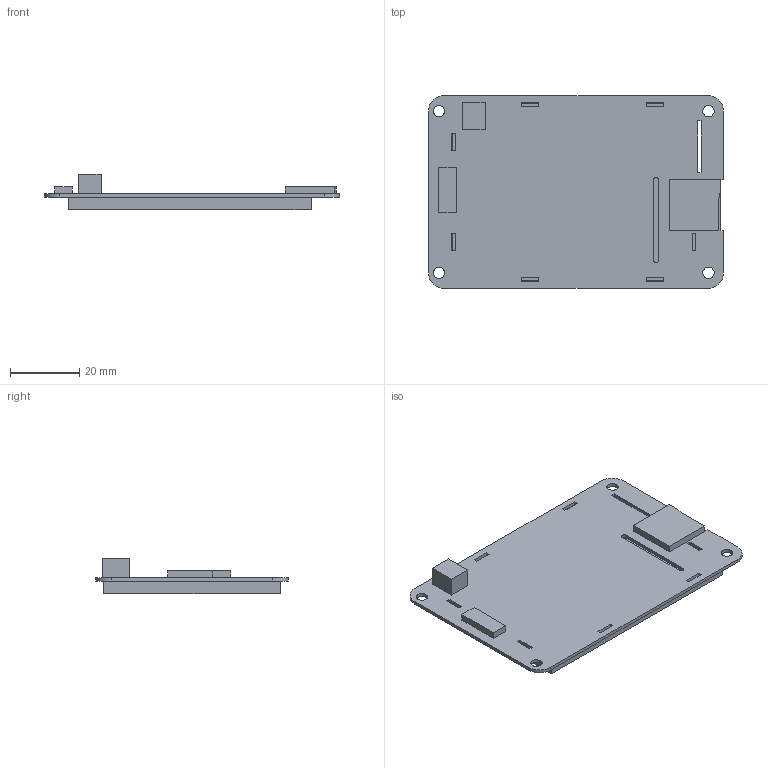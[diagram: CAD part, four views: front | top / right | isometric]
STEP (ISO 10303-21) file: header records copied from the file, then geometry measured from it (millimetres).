
FILE_DESCRIPTION((''),'2;1');
FILE_NAME('3D-DMT32240C028-06WT','2018-12-07T',('Administrator'),(''),'PRO/ENGINEER BY PARAMETRIC TECHNOLOGY CORPORATION, 2011310','PRO/ENGINEER BY PARAMETRIC TECHNOLOGY CORPORATION, 2011310','');
FILE_SCHEMA(('CONFIG_CONTROL_DESIGN','SHAPE_APPEARANCE_LAYERS_GROUPS'));
Length unit declared in the file: millimetre
Products named in the file (1): 3D-DMT32240C028-06WT
Bounding box: 85.22 x 55.63 x 10.3 mm (x, y, z)
Volume: 17587.9 mm3; surface area: 11131.3 mm2
Topology: 1 solids, 1 shells, 99 faces, 336 edges, 246 vertices
Faces by surface type: plane 81, cylinder 18
Entity records: 4504 total; most frequent: CARTESIAN_POINT 615, DIRECTION 574, ORIENTED_EDGE 548, VECTOR 300, LINE 300, EDGE_CURVE 274, VERTEX_POINT 178, PRESENTATION_STYLE_ASSIGNMENT 163
